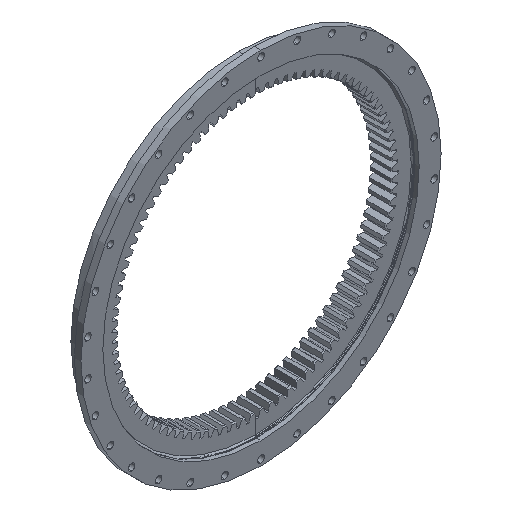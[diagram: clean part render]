
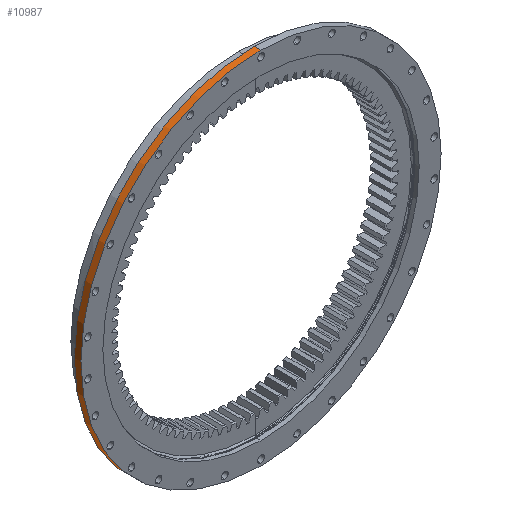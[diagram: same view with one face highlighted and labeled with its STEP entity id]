
A CAD part, isometric view. The second image highlights one B-rep face of the part: STEP entity #10987.
In plain terms, the highlighted cylindrical face has radius 600 mm (diameter 1200 mm), a partial arc.
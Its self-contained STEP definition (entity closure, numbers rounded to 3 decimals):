
#233 = VERTEX_POINT ( 'NONE', #10226 ) ;
#1452 = CARTESIAN_POINT ( 'NONE',  ( 0., -6.866, 0. ) ) ;
#1483 = FACE_OUTER_BOUND ( 'NONE', #28004, .T. ) ;
#1687 = CARTESIAN_POINT ( 'NONE',  ( 0., -28.866, -600. ) ) ;
#2163 = DIRECTION ( 'NONE',  ( 0., -1., 0. ) ) ;
#3283 = CARTESIAN_POINT ( 'NONE',  ( 0., 0., 600. ) ) ;
#3284 = ORIENTED_EDGE ( 'NONE', *, *, #26484, .T. ) ;
#4538 = ORIENTED_EDGE ( 'NONE', *, *, #15343, .T. ) ;
#5846 = CYLINDRICAL_SURFACE ( 'NONE', #7810, 600. ) ;
#7625 = CARTESIAN_POINT ( 'NONE',  ( 0., -6.866, -600. ) ) ;
#7794 = CIRCLE ( 'NONE', #27740, 600. ) ;
#7810 = AXIS2_PLACEMENT_3D ( 'NONE', #25468, #20969, #14720 ) ;
#7858 = DIRECTION ( 'NONE',  ( 0., -1., 0. ) ) ;
#8685 = DIRECTION ( 'NONE',  ( 0., 0., -1. ) ) ;
#9196 = ORIENTED_EDGE ( 'NONE', *, *, #16100, .F. ) ;
#9644 = LINE ( 'NONE', #3283, #25410 ) ;
#9926 = DIRECTION ( 'NONE',  ( 0., -1., 0. ) ) ;
#10226 = CARTESIAN_POINT ( 'NONE',  ( 0., -6.866, 600. ) ) ;
#10439 = VERTEX_POINT ( 'NONE', #7625 ) ;
#10987 = ADVANCED_FACE ( 'NONE', ( #1483 ), #5846, .T. ) ;
#12029 = CARTESIAN_POINT ( 'NONE',  ( 0., 0., -600. ) ) ;
#12594 = DIRECTION ( 'NONE',  ( 0., -1., 0. ) ) ;
#14720 = DIRECTION ( 'NONE',  ( 0., 0., -1. ) ) ;
#14874 = VERTEX_POINT ( 'NONE', #17888 ) ;
#15343 = EDGE_CURVE ( 'NONE', #10439, #19998, #19121, .T. ) ;
#15791 = EDGE_CURVE ( 'NONE', #233, #14874, #9644, .T. ) ;
#16100 = EDGE_CURVE ( 'NONE', #14874, #19998, #7794, .T. ) ;
#17888 = CARTESIAN_POINT ( 'NONE',  ( 0., -28.866, 600. ) ) ;
#19121 = LINE ( 'NONE', #12029, #21239 ) ;
#19744 = CARTESIAN_POINT ( 'NONE',  ( 0., -28.866, 0. ) ) ;
#19998 = VERTEX_POINT ( 'NONE', #1687 ) ;
#20969 = DIRECTION ( 'NONE',  ( 0., -1., 0. ) ) ;
#21080 = DIRECTION ( 'NONE',  ( 0., 0., -1. ) ) ;
#21239 = VECTOR ( 'NONE', #12594, 1000. ) ;
#23952 = CIRCLE ( 'NONE', #24883, 600. ) ;
#24883 = AXIS2_PLACEMENT_3D ( 'NONE', #1452, #7858, #21080 ) ;
#25410 = VECTOR ( 'NONE', #9926, 1000. ) ;
#25468 = CARTESIAN_POINT ( 'NONE',  ( 0., 0., 0. ) ) ;
#26484 = EDGE_CURVE ( 'NONE', #233, #10439, #23952, .T. ) ;
#27740 = AXIS2_PLACEMENT_3D ( 'NONE', #19744, #2163, #8685 ) ;
#28004 = EDGE_LOOP ( 'NONE', ( #28058, #3284, #4538, #9196 ) ) ;
#28058 = ORIENTED_EDGE ( 'NONE', *, *, #15791, .F. ) ;
